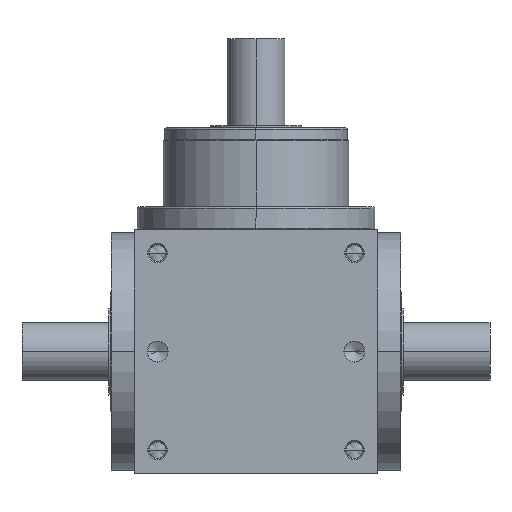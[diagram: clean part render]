
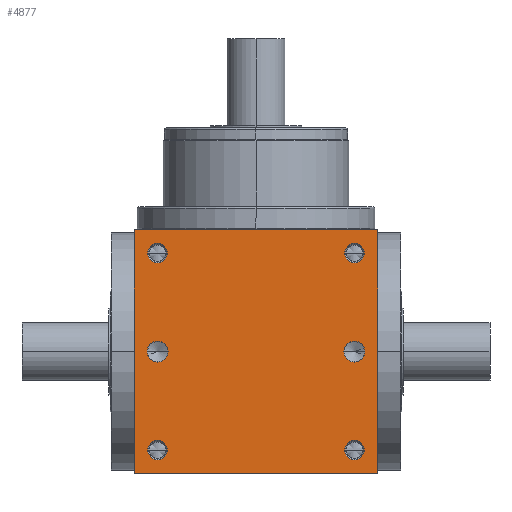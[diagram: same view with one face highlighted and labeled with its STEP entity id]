
A CAD part, front view. The second image highlights one B-rep face of the part: STEP entity #4877.
In plain terms, the highlighted planar face has unit normal (0, -1, 0).
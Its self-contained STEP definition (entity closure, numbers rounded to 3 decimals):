
#5=DIRECTION('',(1.,0.,0.));
#6=VECTOR('',#5,210.);
#7=CARTESIAN_POINT('',(-105.,-105.,-105.));
#8=LINE('',#7,#6);
#155=DIRECTION('',(0.,0.,1.));
#156=VECTOR('',#155,210.);
#157=CARTESIAN_POINT('',(105.,-105.,-105.));
#158=LINE('',#157,#156);
#209=DIRECTION('',(0.,0.,1.));
#210=VECTOR('',#209,210.);
#211=CARTESIAN_POINT('',(-105.,-105.,-105.));
#212=LINE('',#211,#210);
#213=CARTESIAN_POINT('',(85.,-104.999,85.));
#214=DIRECTION('',(0.,1.,0.));
#215=DIRECTION('',(-1.,0.,0.));
#216=AXIS2_PLACEMENT_3D('',#213,#214,#215);
#218=CARTESIAN_POINT('',(85.,-104.999,85.));
#219=DIRECTION('',(0.,1.,0.));
#220=DIRECTION('',(1.,0.,0.));
#221=AXIS2_PLACEMENT_3D('',#218,#219,#220);
#223=CARTESIAN_POINT('',(-85.,-104.999,85.));
#224=DIRECTION('',(0.,1.,0.));
#225=DIRECTION('',(-1.,0.,0.));
#226=AXIS2_PLACEMENT_3D('',#223,#224,#225);
#228=CARTESIAN_POINT('',(-85.,-104.999,85.));
#229=DIRECTION('',(0.,1.,0.));
#230=DIRECTION('',(1.,0.,0.));
#231=AXIS2_PLACEMENT_3D('',#228,#229,#230);
#233=CARTESIAN_POINT('',(85.,-104.999,-85.));
#234=DIRECTION('',(0.,1.,0.));
#235=DIRECTION('',(-1.,0.,0.));
#236=AXIS2_PLACEMENT_3D('',#233,#234,#235);
#238=CARTESIAN_POINT('',(85.,-104.999,-85.));
#239=DIRECTION('',(0.,1.,0.));
#240=DIRECTION('',(1.,0.,0.));
#241=AXIS2_PLACEMENT_3D('',#238,#239,#240);
#243=CARTESIAN_POINT('',(-85.,-104.999,-85.));
#244=DIRECTION('',(0.,1.,0.));
#245=DIRECTION('',(-1.,0.,0.));
#246=AXIS2_PLACEMENT_3D('',#243,#244,#245);
#248=CARTESIAN_POINT('',(-85.,-104.999,-85.));
#249=DIRECTION('',(0.,1.,0.));
#250=DIRECTION('',(1.,0.,0.));
#251=AXIS2_PLACEMENT_3D('',#248,#249,#250);
#253=CARTESIAN_POINT('',(-85.,-105.,0.));
#254=DIRECTION('',(0.,1.,0.));
#255=DIRECTION('',(1.,0.,0.));
#256=AXIS2_PLACEMENT_3D('',#253,#254,#255);
#258=CARTESIAN_POINT('',(-85.,-105.,0.));
#259=DIRECTION('',(0.,1.,0.));
#260=DIRECTION('',(-1.,0.,0.));
#261=AXIS2_PLACEMENT_3D('',#258,#259,#260);
#263=CARTESIAN_POINT('',(85.,-105.,0.));
#264=DIRECTION('',(0.,1.,0.));
#265=DIRECTION('',(1.,0.,0.));
#266=AXIS2_PLACEMENT_3D('',#263,#264,#265);
#268=CARTESIAN_POINT('',(85.,-105.,0.));
#269=DIRECTION('',(0.,1.,0.));
#270=DIRECTION('',(-1.,0.,0.));
#271=AXIS2_PLACEMENT_3D('',#268,#269,#270);
#285=DIRECTION('',(1.,0.,0.));
#286=VECTOR('',#285,210.);
#287=CARTESIAN_POINT('',(-105.,-105.,105.));
#288=LINE('',#287,#286);
#3913=CARTESIAN_POINT('',(-105.,-105.,-105.));
#3915=VERTEX_POINT('',#3913);
#3916=CARTESIAN_POINT('',(105.,-105.,-105.));
#3917=VERTEX_POINT('',#3916);
#3921=CARTESIAN_POINT('',(-105.,-105.,105.));
#3923=VERTEX_POINT('',#3921);
#3924=CARTESIAN_POINT('',(105.,-105.,105.));
#3925=VERTEX_POINT('',#3924);
#4104=CARTESIAN_POINT('',(76.6,-104.999,85.));
#4105=CARTESIAN_POINT('',(93.4,-104.999,85.));
#4106=VERTEX_POINT('',#4104);
#4107=VERTEX_POINT('',#4105);
#4112=CARTESIAN_POINT('',(-93.4,-104.999,85.));
#4113=CARTESIAN_POINT('',(-76.6,-104.999,85.));
#4114=VERTEX_POINT('',#4112);
#4115=VERTEX_POINT('',#4113);
#4120=CARTESIAN_POINT('',(76.6,-104.999,-85.));
#4121=CARTESIAN_POINT('',(93.4,-104.999,-85.));
#4122=VERTEX_POINT('',#4120);
#4123=VERTEX_POINT('',#4121);
#4128=CARTESIAN_POINT('',(-93.4,-104.999,-85.));
#4129=CARTESIAN_POINT('',(-76.6,-104.999,-85.));
#4130=VERTEX_POINT('',#4128);
#4131=VERTEX_POINT('',#4129);
#4488=CARTESIAN_POINT('',(-75.95,-105.,
0.));
#4489=CARTESIAN_POINT('',(-94.05,-105.,
0.));
#4490=VERTEX_POINT('',#4488);
#4491=VERTEX_POINT('',#4489);
#4496=CARTESIAN_POINT('',(94.05,-105.,0.));
#4497=CARTESIAN_POINT('',(75.95,-105.,0.));
#4498=VERTEX_POINT('',#4496);
#4499=VERTEX_POINT('',#4497);
#4829=CARTESIAN_POINT('',(-105.,-105.,-105.));
#4830=DIRECTION('',(0.,-1.,0.));
#4831=DIRECTION('',(1.,0.,0.));
#4832=AXIS2_PLACEMENT_3D('',#4829,#4830,#4831);
#4833=PLANE('',#4832);
#4834=ORIENTED_EDGE('',*,*,#4669,.F.);
#4835=ORIENTED_EDGE('',*,*,#4712,.T.);
#4837=ORIENTED_EDGE('',*,*,#4836,.T.);
#4838=ORIENTED_EDGE('',*,*,#4791,.F.);
#4839=EDGE_LOOP('',(#4834,#4835,#4837,#4838));
#4840=FACE_OUTER_BOUND('',#4839,.F.);
#4842=ORIENTED_EDGE('',*,*,#4841,.F.);
#4844=ORIENTED_EDGE('',*,*,#4843,.F.);
#4845=EDGE_LOOP('',(#4842,#4844));
#4846=FACE_BOUND('',#4845,.F.);
#4848=ORIENTED_EDGE('',*,*,#4847,.F.);
#4850=ORIENTED_EDGE('',*,*,#4849,.F.);
#4851=EDGE_LOOP('',(#4848,#4850));
#4852=FACE_BOUND('',#4851,.F.);
#4854=ORIENTED_EDGE('',*,*,#4853,.F.);
#4856=ORIENTED_EDGE('',*,*,#4855,.F.);
#4857=EDGE_LOOP('',(#4854,#4856));
#4858=FACE_BOUND('',#4857,.F.);
#4860=ORIENTED_EDGE('',*,*,#4859,.F.);
#4862=ORIENTED_EDGE('',*,*,#4861,.F.);
#4863=EDGE_LOOP('',(#4860,#4862));
#4864=FACE_BOUND('',#4863,.F.);
#4866=ORIENTED_EDGE('',*,*,#4865,.F.);
#4868=ORIENTED_EDGE('',*,*,#4867,.F.);
#4869=EDGE_LOOP('',(#4866,#4868));
#4870=FACE_BOUND('',#4869,.F.);
#4872=ORIENTED_EDGE('',*,*,#4871,.F.);
#4874=ORIENTED_EDGE('',*,*,#4873,.F.);
#4875=EDGE_LOOP('',(#4872,#4874));
#4876=FACE_BOUND('',#4875,.F.);
#4877=ADVANCED_FACE('',(#4840,#4846,#4852,#4858,#4864,#4870,#4876),#4833,.T.);
#217=CIRCLE('',#216,8.4);
#222=CIRCLE('',#221,8.4);
#227=CIRCLE('',#226,8.4);
#232=CIRCLE('',#231,8.4);
#237=CIRCLE('',#236,8.4);
#242=CIRCLE('',#241,8.4);
#247=CIRCLE('',#246,8.4);
#252=CIRCLE('',#251,8.4);
#257=CIRCLE('',#256,9.05);
#262=CIRCLE('',#261,9.05);
#267=CIRCLE('',#266,9.05);
#272=CIRCLE('',#271,9.05);
#4669=EDGE_CURVE('',#3915,#3917,#8,.T.);
#4712=EDGE_CURVE('',#3915,#3923,#212,.T.);
#4791=EDGE_CURVE('',#3917,#3925,#158,.T.);
#4836=EDGE_CURVE('',#3923,#3925,#288,.T.);
#4841=EDGE_CURVE('',#4106,#4107,#217,.T.);
#4843=EDGE_CURVE('',#4107,#4106,#222,.T.);
#4847=EDGE_CURVE('',#4114,#4115,#227,.T.);
#4849=EDGE_CURVE('',#4115,#4114,#232,.T.);
#4853=EDGE_CURVE('',#4122,#4123,#237,.T.);
#4855=EDGE_CURVE('',#4123,#4122,#242,.T.);
#4859=EDGE_CURVE('',#4130,#4131,#247,.T.);
#4861=EDGE_CURVE('',#4131,#4130,#252,.T.);
#4865=EDGE_CURVE('',#4490,#4491,#257,.T.);
#4867=EDGE_CURVE('',#4491,#4490,#262,.T.);
#4871=EDGE_CURVE('',#4498,#4499,#267,.T.);
#4873=EDGE_CURVE('',#4499,#4498,#272,.T.);
